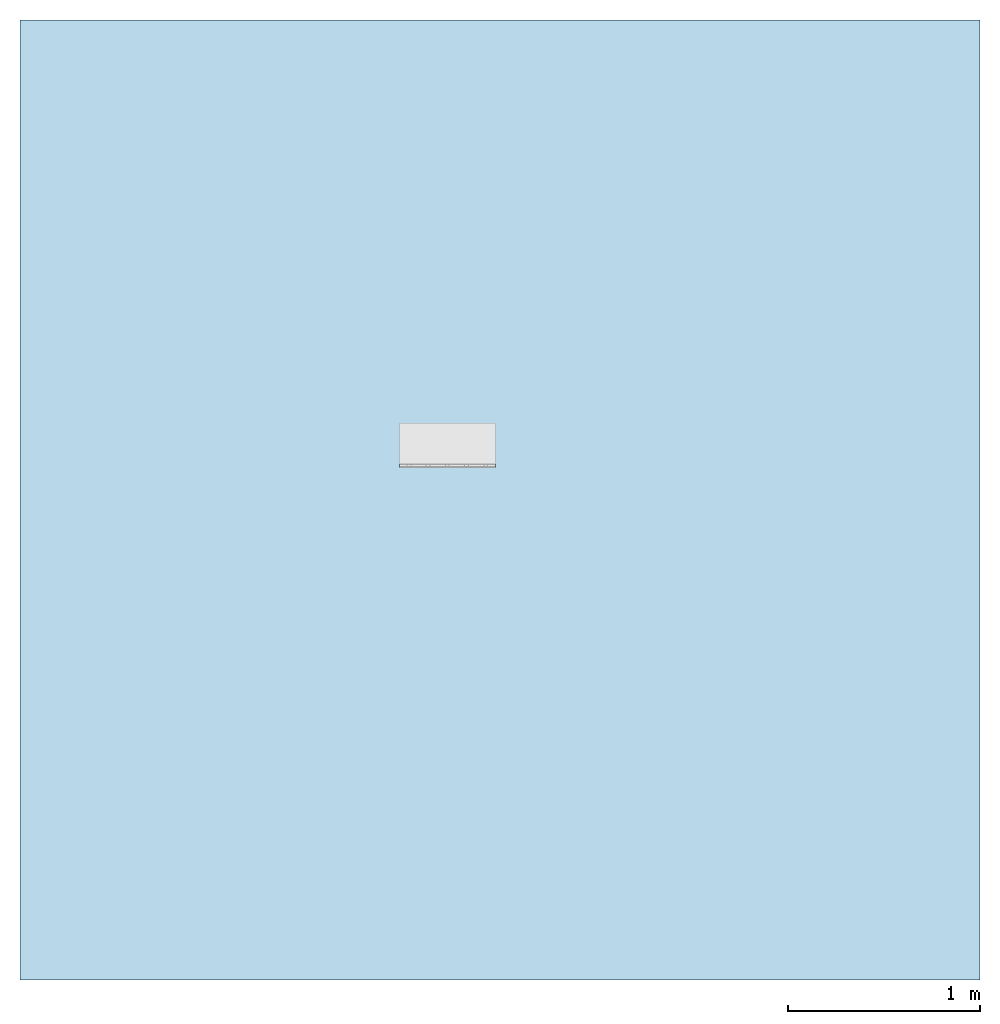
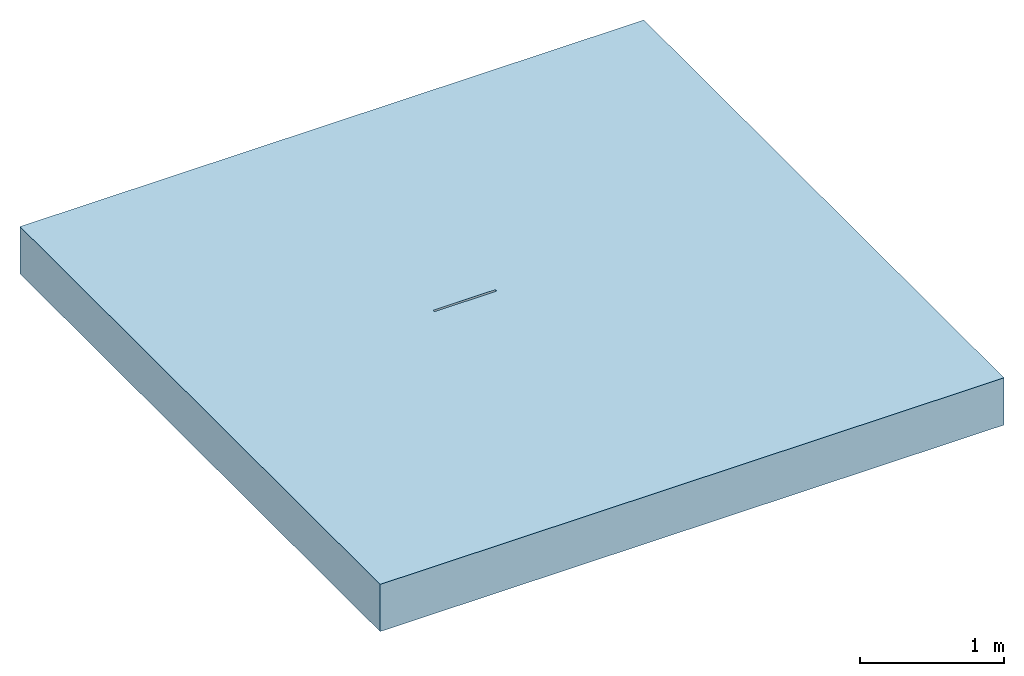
# One storey, part 1 of 2: 1 slab, 2 openings.
"""IFC2X3 building model written with IfcOpenShell, lengths in millimetres."""

import ifcopenshell
import ifcopenshell.guid

model = None  # the IFC model being written
_history = None  # IfcOwnerHistory: only IFC2X3 demands one
_inside = {}  # id of a spatial element -> (the spatial element, [elements in it])
_under = {}  # id of a project, library or spatial element -> (it, [spatial elements below it])
_declared = {}  # id of a project -> (the project, [libraries it declares])
_typed = {}  # id of a type object -> (the type object, [elements of that type])
_made_of = {}  # id of a material, layer set ... -> (it, [elements and type objects made of it])


def new_model(schema):
    """Start an empty IFC model of exactly this schema.

    Asked for "IFC4X3", IfcOpenShell would pick the latest addendum, in which some entities
    have other attributes; the version numbers below select the first issue.
    IFC2X3 requires an IfcOwnerHistory on every rooted entity: one is made here for all.
    """
    global model, _history
    if schema == "IFC4X3":
        model = ifcopenshell.file(schema_version=(4, 3, 0, 0))
    else:
        model = ifcopenshell.file(schema=schema)
    _inside.clear()
    _under.clear()
    _declared.clear()
    _typed.clear()
    _made_of.clear()
    _history = None
    if model.schema == "IFC2X3":
        org = make("IfcOrganization", Name="unknown")
        user = make(
            "IfcPersonAndOrganization",
            ThePerson=make("IfcPerson", FamilyName="unknown"),
            TheOrganization=org,
        )
        app = make(
            "IfcApplication",
            ApplicationDeveloper=org,
            Version="unknown",
            ApplicationFullName="unknown",
            ApplicationIdentifier="unknown",
        )
        _history = make(
            "IfcOwnerHistory",
            OwningUser=user,
            OwningApplication=app,
            ChangeAction="ADDED",
            CreationDate=0,
        )
    return model


def make(cls, **values):
    """One entity of the class cls with the attributes given. An attribute that is None is left unset."""
    return model.create_entity(
        cls, **{name: value for name, value in values.items() if value is not None}
    )


def entity(cls, *values):
    """Any entity or typed value of the class cls, its attributes in the order of the schema. None: left unset."""
    e = model.create_entity(cls)
    for i, value in enumerate(values):
        if value is not None:
            e[i] = value
    return e


def rooted(cls, **values):
    """An entity with a GlobalId (a new one), such as an element, a storey or a relation."""
    return make(cls, GlobalId=ifcopenshell.guid.new(), OwnerHistory=_history, **values)


def si_unit(unit_type, name, prefix=None):
    """IfcSIUnit, for example si_unit("LENGTHUNIT", "METRE", prefix="MILLI")."""
    return make("IfcSIUnit", UnitType=unit_type, Prefix=prefix, Name=name)


def converted_unit(unit_type, name, factor, base, dimensions=None, offset=None):
    """IfcConversionBasedUnit, such as the inch: factor (a typed value) times the base unit."""
    return make(
        "IfcConversionBasedUnit"
        if offset is None
        else "IfcConversionBasedUnitWithOffset",
        ConversionOffset=offset,
        Dimensions=None
        if dimensions is None
        else entity("IfcDimensionalExponents", *dimensions),
        UnitType=unit_type,
        Name=name,
        ConversionFactor=make(
            "IfcMeasureWithUnit", ValueComponent=factor, UnitComponent=base
        ),
    )


def assignment(units):
    """IfcUnitAssignment: the units of a project."""
    return None if units is None else make("IfcUnitAssignment", Units=units)


def point(xyz):
    """IfcCartesianPoint."""
    return None if xyz is None else make("IfcCartesianPoint", Coordinates=xyz)


def direction(xyz):
    """IfcDirection."""
    return None if xyz is None else make("IfcDirection", DirectionRatios=xyz)


def frame(location, z_axis=None, x_axis=None):
    """IfcAxis2Placement3D, a coordinate frame: its origin and axes. An axis left out is left unset."""
    return make(
        "IfcAxis2Placement3D",
        Location=point(location),
        Axis=direction(z_axis),
        RefDirection=direction(x_axis),
    )


def frame_2d(location, x_axis=None):
    """IfcAxis2Placement2D, a coordinate frame in the plane: its origin and x axis."""
    return make(
        "IfcAxis2Placement2D", Location=point(location), RefDirection=direction(x_axis)
    )


def origin():
    """The frame at (0, 0, 0) with its axes left unset."""
    return frame((0.0, 0.0, 0.0))


def place(relative_to, where):
    """IfcLocalPlacement: puts the frame where relative to a parent placement (None: the world)."""
    return make(
        "IfcLocalPlacement", PlacementRelTo=relative_to, RelativePlacement=where
    )


def context(
    kind, dimensions, precision=None, world=None, true_north=None, identifier=None
):
    """IfcGeometricRepresentationContext, for example the 3D "Model" context."""
    return make(
        "IfcGeometricRepresentationContext",
        ContextIdentifier=identifier,
        ContextType=kind,
        CoordinateSpaceDimension=dimensions,
        Precision=precision,
        WorldCoordinateSystem=world,
        TrueNorth=true_north,
    )


def subcontext(parent, identifier, kind, view, scale=None):
    """IfcGeometricRepresentationSubContext, for example "Body" below "Model"."""
    return make(
        "IfcGeometricRepresentationSubContext",
        ContextIdentifier=identifier,
        ContextType=kind,
        ParentContext=parent,
        TargetScale=scale,
        TargetView=view,
    )


def project(units=None, contexts=None):
    """IfcProject with its units and contexts."""
    return rooted(
        "IfcProject",
        Name="project",
        RepresentationContexts=contexts,
        UnitsInContext=assignment(units),
    )


def spatial(cls, under=None, at=None, **own):
    """A site, building, storey or space (cls), placed at a placement, below another one or the project."""
    s = rooted(cls, ObjectPlacement=at, **own)
    if under is not None:
        _under.setdefault(under.id(), (under, []))[1].append(s)
    return s


def polyline(points):
    """IfcPolyline through the points."""
    return make("IfcPolyline", Points=[point(p) for p in points])


def profile(cls, at=None, kind="AREA", **sizes):
    """A parametric profile (cls). Its sizes go by their IFC names, for example OverallWidth=200.0."""
    return make(cls, ProfileType=kind, Position=at, **sizes)


def rectangle(**sizes):
    """IfcRectangleProfileDef."""
    return profile("IfcRectangleProfileDef", **sizes)


def outline(outer, holes=None, kind="AREA"):
    """IfcArbitraryClosedProfileDef: a profile drawn as a closed curve; with holes, ...WithVoids."""
    if holes is None:
        return make("IfcArbitraryClosedProfileDef", ProfileType=kind, OuterCurve=outer)
    return make(
        "IfcArbitraryProfileDefWithVoids",
        ProfileType=kind,
        OuterCurve=outer,
        InnerCurves=holes,
    )


def extrude(swept, where, along, depth):
    """IfcExtrudedAreaSolid: the profile swept, set in the frame where, extruded along a direction by depth."""
    return make(
        "IfcExtrudedAreaSolid",
        SweptArea=swept,
        Position=where,
        ExtrudedDirection=direction(along),
        Depth=depth,
    )


def shape(context_of_items, identifier, shape_type, items):
    """IfcShapeRepresentation: the items that make up one representation, for example the "Body"."""
    return make(
        "IfcShapeRepresentation",
        ContextOfItems=context_of_items,
        RepresentationIdentifier=identifier,
        RepresentationType=shape_type,
        Items=items,
    )


def material(Name=None, Category=None):
    """IfcMaterial."""
    return make("IfcMaterial", Name=Name, Category=Category)


def layer(
    of_material, thickness, ventilated=None, Name=None, Category=None, Priority=None
):
    """IfcMaterialLayer: one layer of a wall or slab, of a material (None: an air gap)."""
    return make(
        "IfcMaterialLayer",
        Material=of_material,
        LayerThickness=thickness,
        IsVentilated=ventilated,
        Name=Name,
        Category=Category,
        Priority=Priority,
    )


def layer_set(layers, Name=None):
    """IfcMaterialLayerSet."""
    return make("IfcMaterialLayerSet", MaterialLayers=layers, LayerSetName=Name)


def layer_usage(for_layer_set, set_direction, sense, offset, extent=None):
    """IfcMaterialLayerSetUsage: how a layer set lies in its element."""
    return make(
        "IfcMaterialLayerSetUsage",
        ForLayerSet=for_layer_set,
        LayerSetDirection=set_direction,
        DirectionSense=sense,
        OffsetFromReferenceLine=offset,
        ReferenceExtent=extent,
    )


def made_of(thing, what):
    """Note that an element or type object is made of a material, layer set ...; save() writes the relation."""
    if what is not None:
        _made_of.setdefault(what.id(), (what, []))[1].append(thing)
    return thing


def element(
    cls,
    number,
    at=None,
    inside=None,
    cuts=None,
    type_object=None,
    material=None,
    context=None,
    identifier="Body",
    shape_type=None,
    held_by="IfcProductDefinitionShape",
    body=None,
    shapes=None,
    **own,
):
    """One element of the class cls, such as IfcWall. Its Tag is "e" and its number.

    at: its placement. inside: the storey or other place that contains it. cuts: it is an
    opening in that element (IfcRelVoidsElement). A single representation is given by context,
    identifier, shape_type and body (its items); several are given by shapes. held_by: the class
    of the entity that holds the representations. save() writes the other relations.
    """
    e = rooted(cls, Tag="e%d" % number, ObjectPlacement=at, **own)
    if body is not None:
        shapes = [shape(context, identifier, shape_type, body)]
    if shapes is not None:
        e.Representation = make(held_by, Representations=shapes)
    if inside is not None:
        _inside.setdefault(inside.id(), (inside, []))[1].append(e)
    if cuts is not None:
        rooted(
            "IfcRelVoidsElement", RelatingBuildingElement=cuts, RelatedOpeningElement=e
        )
    if type_object is not None:
        _typed.setdefault(type_object.id(), (type_object, []))[1].append(e)
    return made_of(e, material)


def aggregate(whole, parts):
    """IfcRelAggregates: a whole, such as a stair, and the parts it consists of."""
    return rooted("IfcRelAggregates", RelatingObject=whole, RelatedObjects=parts)


def save(model, path):
    """Write the relations noted so far, then the file.

    IfcRelAggregates (storeys below a building ...), IfcRelContainedInSpatialStructure (elements
    in a storey), IfcRelDefinesByType, IfcRelAssociatesMaterial and IfcRelDeclares: one each for
    every whole, place, type object, material and project.
    """
    for whole, parts in _under.values():
        aggregate(whole, parts)
    for where, things in _inside.values():
        rooted(
            "IfcRelContainedInSpatialStructure",
            RelatedElements=things,
            RelatingStructure=where,
        )
    for kind, things in _typed.values():
        rooted("IfcRelDefinesByType", RelatedObjects=things, RelatingType=kind)
    for what, things in _made_of.values():
        rooted("IfcRelAssociatesMaterial", RelatedObjects=things, RelatingMaterial=what)
    for by, libraries in _declared.values():
        rooted("IfcRelDeclares", RelatingContext=by, RelatedDefinitions=libraries)
    model.write(path)


model = new_model("IFC2X3")

# Units and contexts
model_context = context("Model", 3, precision=1e-06, world=origin(), true_north=direction((2.0, 6.12303176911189e-17, 1.0)))
context_of_model = context(None, 3, precision=1e-06, world=origin(), true_north=direction((2.0, 6.12303176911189e-17, 1.0)))
body_context = subcontext(model_context, "Body", "Model", "MODEL_VIEW")
ifc_project = project(units=[si_unit("LENGTHUNIT", "METRE", prefix="MILLI"), si_unit("AREAUNIT", "SQUARE_METRE", prefix="MILLI"), si_unit("VOLUMEUNIT", "CUBIC_METRE", prefix="MILLI"), converted_unit("PLANEANGLEUNIT", "DEGREE", entity("IfcRatioMeasure", 0.0174532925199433), si_unit("PLANEANGLEUNIT", "RADIAN"), dimensions=[0, 0, 0, 0, 0, 0, 0]), si_unit("TIMEUNIT", "SECOND")], contexts=[model_context, context_of_model])

# Site, building, storey
site_placement = place(None, origin())
site = spatial("IfcSite", under=ifc_project, at=site_placement, Name="Default", CompositionType="ELEMENT")
building_placement = place(site_placement, origin())
building = spatial("IfcBuilding", under=site, at=building_placement, CompositionType="ELEMENT")
storey_placement = place(building_placement, origin())
storey = spatial("IfcBuildingStorey", under=building, at=storey_placement, Name="Level 1", CompositionType="ELEMENT", Elevation=0.0)

# Slab, openings
ifc_material = material(Name="Earth")
ifc_layer = layer(ifc_material, 400.0)
ifc_layer_set = layer_set([ifc_layer], Name="Floor:Generic Floor - 400mm")
ifc_layer_usage = layer_usage(ifc_layer_set, "AXIS3", "POSITIVE", 0.0)
slab_placement = place(storey_placement, origin())
slab = element("IfcSlab", 1, at=slab_placement, inside=storey, material=ifc_layer_usage, Name="Floor:Generic Floor - 400mm", ObjectType="Floor:Generic Floor - 400mm", PredefinedType="FLOOR", context=body_context, shape_type="SweptSolid", body=[
    extrude(rectangle(XDim=5000.0, YDim=5000.0, at=frame_2d((0.0, 0.0), x_axis=(0.0, -1.0))), frame((0.0, 0.0, 0.0), z_axis=(0.0, 0.0, -1.0), x_axis=(-1.0, 0.0, 0.0)), (0.0, 0.0, 1.0), 400.0),
])
opening_1_placement = place(slab_placement, origin())
element("IfcOpeningElement", 2, at=opening_1_placement, cuts=slab, ObjectType="Recess", context=body_context, shape_type="SweptSolid", body=[
    extrude(outline(polyline([(-113.25, -250.0), (113.25, -250.0), (113.25, 250.0), (-113.25, 250.0), (-113.25, -250.0)]), holes=[polyline([(-103.25, -244.0), (-103.25, 244.0), (95.2500000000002, 244.0), (95.2500000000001, -244.0), (-103.25, -244.0)])]), frame((-274.526979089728, 283.738326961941, -6105.0), z_axis=(0.0, 0.0, 1.0), x_axis=(0.0, -1.0, 0.0)), (0.0, 0.0, 1.0), 105.0),
])
opening_2_placement = place(slab_placement, origin())
element("IfcOpeningElement", 3, at=opening_2_placement, cuts=slab, ObjectType="Recess", context=body_context, shape_type="SweptSolid", body=[
    extrude(outline(polyline([(-65.375, -225.0), (169.625000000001, -225.0), (169.625000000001, 40.0), (-43.1250000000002, 40.0), (-43.1250000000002, 145.0), (-61.1250000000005, 145.0), (-61.1250000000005, 40.0), (-65.3750000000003, 40.0), (-65.375, -225.0)])), frame((-524.526979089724, 231.613326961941, -145.0), z_axis=(1.0, 0.0, 0.0), x_axis=(0.0, 1.0, 0.0)), (0.0, 0.0, 1.0), 500.0),
])

save(model, "model.ifc")
